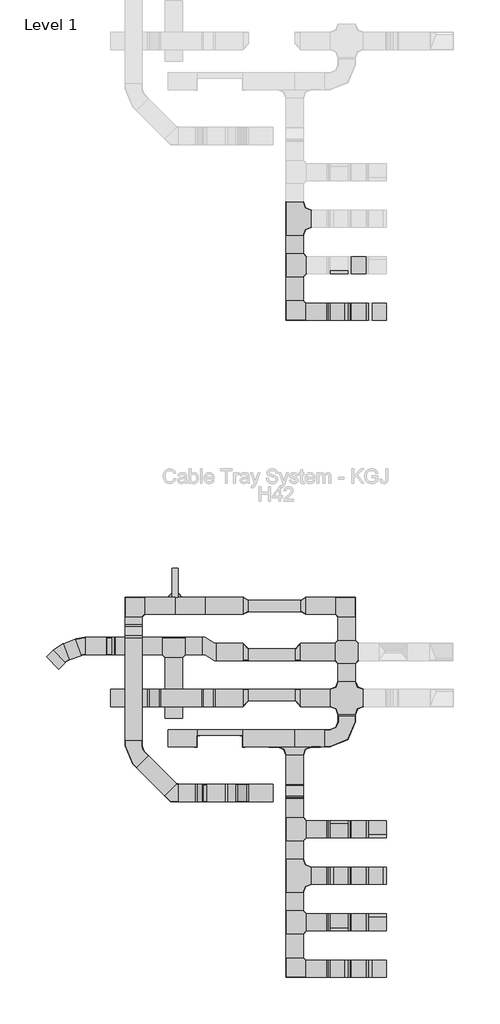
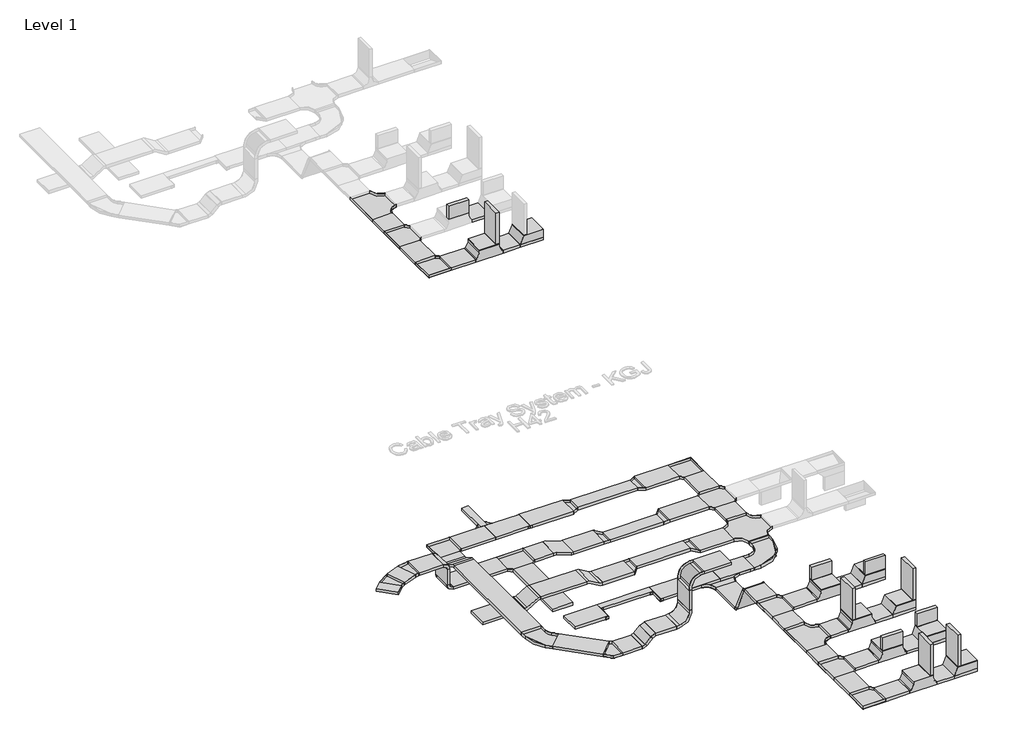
# One storey, part 1 of 106: 65 cable carrier segments, 51 cable carrier fittings.
"""IFC4 building model written with IfcOpenShell, lengths in millimetres."""

from ifc_helpers import new_model, si_unit, frame, origin, place, context, project, spatial, polyline, outline, extrude, transform, mapped, element, save
from components import cable_carrier_fitting_e5c8e40d, cable_carrier_fitting_89415aa4, cable_carrier_fitting_efa56db2, cable_carrier_fitting_91cb0ece, cable_carrier_fitting_fd90c8b5, cable_carrier_fitting_9cc64f74, cable_carrier_fitting_881c8fdb, cable_carrier_fitting_302010ec, cable_carrier_fitting_bee8c25e, cable_carrier_fitting_2b67af39, cable_carrier_fitting_af289c29, cable_carrier_fitting_3ff81d9b, cable_carrier_fitting_7d5806c9, cable_carrier_fitting_0ce080ce, cable_carrier_fitting_1724e2f5, cable_carrier_fitting_0e05e12f, cable_carrier_fitting_aa4403b1, cable_carrier_fitting_df0feb0d, cable_carrier_fitting_19ef2403, cable_carrier_fitting_0fee3a18, cable_carrier_fitting_e93d4d17, cable_carrier_fitting_f62230c1, cable_carrier_fitting_68112528, cable_carrier_fitting_3c0e6721, cable_carrier_fitting_94ef316f, cable_carrier_fitting_d4aa8912, cable_carrier_fitting_70c157f5, cable_carrier_fitting_f138ef00, cable_carrier_fitting_b296faec, cable_carrier_fitting_717dd42d, cable_carrier_fitting_55953e98, cable_carrier_fitting_c1d9b0e5, rkj200_h42_1d64d163, rkj200_h42_0f858a6a

model = new_model("IFC4")

# Units and contexts
model_context = context("Model", 3, world=origin())
ifc_project = project(units=[si_unit("LENGTHUNIT", "METRE", prefix="MILLI")], contexts=[model_context])

# Site, building, storey
site = spatial("IfcSite", under=ifc_project)
building = spatial("IfcBuilding", under=site)
storey = spatial("IfcBuildingStorey", under=building, Name="Level 1", Elevation=0.0)

# Cable carrier fittings
placement = place(None, origin())
cable_carrier_fitting_shape = cable_carrier_fitting_e5c8e40d(model_context)
element("IfcCableCarrierFitting", 1, ObjectType="BAKS_SUB_Corner connector : LRJ_H42", at=placement, inside=storey, context=model_context, shape_type="MappedRepresentation", body=[
    mapped(cable_carrier_fitting_shape, transform((-19375.1670538, 35330.8714214, -21.0), x_axis=(-1.0, 0.0, 0.0), y_axis=(0.0, -1.0, 0.0), z_axis=(0.0, 0.0, 1.0))),
])
element("IfcCableCarrierFitting", 2, ObjectType="BAKS_SUB_Corner connector : LRJ_H42", at=placement, inside=storey, context=model_context, shape_type="MappedRepresentation", body=[
    mapped(cable_carrier_fitting_shape, transform((-19275.1670538, 35330.8714214, -21.0), x_axis=(0.0, 1.0, 0.0), y_axis=(-1.0, 0.0, 0.0), z_axis=(0.0, 0.0, 1.0))),
])
cable_carrier_fitting_2_shape = cable_carrier_fitting_89415aa4(model_context)
element("IfcCableCarrierFitting", 3, ObjectType="BAKS_Horizontal bend : KKBL/KKMBL_H42", at=placement, inside=storey, context=model_context, shape_type="MappedRepresentation", body=[
    mapped(cable_carrier_fitting_2_shape, transform((-19343.6670538, 31931.3714214, 100.0), x_axis=(0.7071067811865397, -0.7071067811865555, 0.0), y_axis=(0.7071067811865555, 0.7071067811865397, 0.0), z_axis=(0.0, 0.0, 1.0))),
])
cable_carrier_fitting_3_shape = cable_carrier_fitting_efa56db2(model_context)
element("IfcCableCarrierFitting", 4, ObjectType="BAKS_Horizontal bypass : OPZNJ_H42", at=placement, inside=storey, context=model_context, shape_type="MappedRepresentation", body=[
    mapped(cable_carrier_fitting_3_shape, transform((-18722.1670538, 34380.8714214, 0.0), x_axis=(-1.0, 0.0, 0.0), y_axis=(0.0, 1.0, 0.0), z_axis=(0.0, 0.0, -1.0))),
])
cable_carrier_fitting_4_shape = cable_carrier_fitting_91cb0ece(model_context)
element("IfcCableCarrierFitting", 5, ObjectType="BAKS_Horizontal cross over : CZKL_H42", at=placement, inside=storey, context=model_context, shape_type="MappedRepresentation", body=[
    mapped(cable_carrier_fitting_4_shape, transform((-16343.1670538, 34380.8714214, 0.0), x_axis=(0.0, -1.0, 0.0), y_axis=(1.0, 0.0, 0.0), z_axis=(0.0, 0.0, 1.0))),
])
cable_carrier_fitting_5_shape = cable_carrier_fitting_fd90c8b5(model_context)
element("IfcCableCarrierFitting", 6, ObjectType="BAKS_Horizontal tee radius : TKPJ_H42", at=placement, inside=storey, context=model_context, shape_type="MappedRepresentation", body=[
    mapped(cable_carrier_fitting_5_shape, transform((-17246.1670538, 41896.5802898, 432.5277378), x_axis=(0.0, 1.0, 0.0), y_axis=(-1.0, 0.0, 0.0), z_axis=(0.0, 0.0, 1.0))),
])
element("IfcCableCarrierFitting", 7, ObjectType="BAKS_Horizontal tee radius : TKPJ_H42", at=placement, inside=storey, context=model_context, shape_type="MappedRepresentation", body=[
    mapped(cable_carrier_fitting_5_shape, transform((-17246.1670538, 30496.5802898, 432.5277378), x_axis=(0.0, 1.0, 0.0), y_axis=(-1.0, 0.0, 0.0), z_axis=(0.0, 0.0, 1.0))),
])
cable_carrier_fitting_6_shape = cable_carrier_fitting_9cc64f74(model_context)
element("IfcCableCarrierFitting", 8, ObjectType="BAKS_Horizontal tee : TKL_H42", at=placement, inside=storey, context=model_context, shape_type="MappedRepresentation", body=[
    mapped(cable_carrier_fitting_6_shape, transform((-19343.6670538, 34480.8714214, 0.0), x_axis=(1.0, 0.0, 0.0), y_axis=(0.0, 1.0, 0.0), z_axis=(0.0, 0.0, 1.0))),
])
element("IfcCableCarrierFitting", 9, ObjectType="BAKS_Horizontal tee : TKL_H42", at=placement, inside=storey, context=model_context, shape_type="MappedRepresentation", body=[
    mapped(cable_carrier_fitting_6_shape, transform((-17246.1670538, 41089.2974728, 432.5277378), x_axis=(0.0, 1.0, 0.0), y_axis=(-1.0, 0.0, 0.0), z_axis=(0.0, 0.0, 1.0))),
])
element("IfcCableCarrierFitting", 10, ObjectType="BAKS_Horizontal tee : TKL_H42", at=placement, inside=storey, context=model_context, shape_type="MappedRepresentation", body=[
    mapped(cable_carrier_fitting_6_shape, transform((-17246.1670538, 29689.2974728, 432.5277378), x_axis=(0.0, 1.0, 0.0), y_axis=(-1.0, 0.0, 0.0), z_axis=(0.0, 0.0, 1.0))),
])
element("IfcCableCarrierFitting", 11, ObjectType="BAKS_Horizontal tee : TKL_H42", at=placement, inside=storey, context=model_context, shape_type="MappedRepresentation", body=[
    mapped(cable_carrier_fitting_6_shape, transform((-17246.1670538, 31303.8631068, 432.5277378), x_axis=(0.0, 1.0, 0.0), y_axis=(-1.0, 0.0, 0.0), z_axis=(0.0, 0.0, 1.0))),
])
cable_carrier_fitting_7_shape = cable_carrier_fitting_881c8fdb(model_context)
element("IfcCableCarrierFitting", 12, ObjectType="BAKS_Universal elbow : KRUMJ_H42", at=placement, inside=storey, context=model_context, shape_type="MappedRepresentation", body=[
    mapped(cable_carrier_fitting_7_shape, transform((-16006.1670538, 30496.5802898, 432.5277378), x_axis=(1.0, 0.0, 0.0), y_axis=(0.0, 1.0, 0.0), z_axis=(0.0, 0.0, 1.0))),
])
cable_carrier_fitting_8_shape = cable_carrier_fitting_302010ec(model_context)
element("IfcCableCarrierFitting", 13, ObjectType="BAKS_Universal tee : TRUNJ_H42", at=placement, inside=storey, context=model_context, shape_type="MappedRepresentation", body=[
    mapped(cable_carrier_fitting_8_shape, transform((-16473.5199976, 30496.5802898, 432.5277378), x_axis=(-1.0, 0.0, 0.0), y_axis=(0.0, -1.0, 0.0), z_axis=(0.0, 0.0, 1.0))),
])
cable_carrier_fitting_9_shape = cable_carrier_fitting_bee8c25e(model_context)
element("IfcCableCarrierFitting", 14, ObjectType="BAKS_Vertical bend adjustable : LLL/LLJ_H42", at=placement, inside=storey, context=model_context, shape_type="MappedRepresentation", body=[
    mapped(cable_carrier_fitting_9_shape, transform((-18246.2659001, 31931.3714214, 237.4011537), x_axis=(1.0, 0.0, 0.0), y_axis=(0.0, 0.0, 1.0), z_axis=(0.0, -1.0, 0.0))),
])
element("IfcCableCarrierFitting", 15, ObjectType="BAKS_Vertical bend adjustable : LLL/LLJ_H42", at=placement, inside=storey, context=model_context, shape_type="MappedRepresentation", body=[
    mapped(cable_carrier_fitting_9_shape, transform((-18246.2659001, 31931.3714214, 977.4011537), x_axis=(0.0, 0.0, 1.0), y_axis=(1.0, 0.0, 0.0), z_axis=(0.0, 1.0, 0.0))),
])
cable_carrier_fitting_10_shape = cable_carrier_fitting_2b67af39(model_context)
element("IfcCableCarrierFitting", 16, ObjectType="BAKS_Vertical bypass : OPNNJ_H42", at=placement, inside=storey, context=model_context, shape_type="MappedRepresentation", body=[
    mapped(cable_carrier_fitting_10_shape, transform((-19686.6670538, 33580.8714214, 100.0), x_axis=(-1.0, 0.0, 0.0), y_axis=(0.0, -1.0, 0.0), z_axis=(0.0, 0.0, 1.0))),
])
cable_carrier_fitting_11_shape = cable_carrier_fitting_af289c29(model_context)
element("IfcCableCarrierFitting", 17, ObjectType="BAKS_Articulated_connector : LGJ_H42", at=placement, inside=storey, context=model_context, shape_type="MappedRepresentation", body=[
    mapped(cable_carrier_fitting_11_shape, transform((-17246.1670538, 32058.7056523, 0.0), x_axis=(0.0, -1.0, 0.0), y_axis=(0.0, 0.0, 1.0), z_axis=(-1.0, 0.0, 0.0))),
])
element("IfcCableCarrierFitting", 18, ObjectType="BAKS_Articulated_connector : LGJ_H42", at=placement, inside=storey, context=model_context, shape_type="MappedRepresentation", body=[
    mapped(cable_carrier_fitting_11_shape, transform((-17246.1670538, 31857.0146558, 432.5277378), x_axis=(0.0, -0.42261826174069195, 0.9063077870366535), y_axis=(0.0, -0.9063077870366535, -0.42261826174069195), z_axis=(1.0, 0.0, 0.0))),
])
cable_carrier_fitting_12_shape = cable_carrier_fitting_3ff81d9b(model_context)
element("IfcCableCarrierFitting", 19, ObjectType="BAKS_Universal tee : TRUNJ_H42", at=placement, inside=storey, context=model_context, shape_type="MappedRepresentation", body=[
    mapped(cable_carrier_fitting_12_shape, transform((-16473.5199976, 31303.8631068, 432.5277378), x_axis=(-1.0, 0.0, 0.0), y_axis=(0.0, -1.0, 0.0), z_axis=(0.0, 0.0, 1.0))),
])
cable_carrier_fitting_13_shape = cable_carrier_fitting_7d5806c9(model_context)
element("IfcCableCarrierFitting", 20, ObjectType="BAKS_Universal tee : TRUNJ_H42", at=placement, inside=storey, context=model_context, shape_type="MappedRepresentation", body=[
    mapped(cable_carrier_fitting_13_shape, transform((-16473.5199976, 29689.2974728, 432.5277378), x_axis=(-1.0, 0.0, 0.0), y_axis=(0.0, -1.0, 0.0), z_axis=(0.0, 0.0, 1.0))),
])
cable_carrier_fitting_14_shape = cable_carrier_fitting_0ce080ce(model_context)
element("IfcCableCarrierFitting", 21, ObjectType="BAKS_Universal tee : TRUNJ_H42", at=placement, inside=storey, context=model_context, shape_type="MappedRepresentation", body=[
    mapped(cable_carrier_fitting_14_shape, transform((-16473.5199976, 40282.0146558, 432.5277378), x_axis=(-1.0, 0.0, 0.0), y_axis=(0.0, -1.0, 0.0), z_axis=(0.0, 0.0, 1.0))),
])
element("IfcCableCarrierFitting", 22, ObjectType="BAKS_Universal tee : TRUNJ_H42", at=placement, inside=storey, context=model_context, shape_type="MappedRepresentation", body=[
    mapped(cable_carrier_fitting_14_shape, transform((-16473.5199976, 28882.0146558, 432.5277378), x_axis=(-1.0, 0.0, 0.0), y_axis=(0.0, -1.0, 0.0), z_axis=(0.0, 0.0, 1.0))),
])
cable_carrier_fitting_15_shape = cable_carrier_fitting_1724e2f5(model_context)
element("IfcCableCarrierFitting", 23, ObjectType="BAKS_Vertical bypass : OPNNJ_H42", at=placement, inside=storey, context=model_context, shape_type="MappedRepresentation", body=[
    mapped(cable_carrier_fitting_15_shape, transform((-18743.6670538, 33580.8714214, 0.0), x_axis=(-1.0, 0.0, 0.0), y_axis=(0.0, -1.0, 0.0), z_axis=(0.0, 0.0, 1.0))),
])
element("IfcCableCarrierFitting", 24, ObjectType="BAKS_Vertical bypass : OPNNJ_H42", at=placement, inside=storey, context=model_context, shape_type="MappedRepresentation", body=[
    mapped(cable_carrier_fitting_15_shape, transform((-20043.1670538, 34739.3714214, 0.0), x_axis=(0.0, -1.0, 0.0), y_axis=(1.0, 0.0, 0.0), z_axis=(0.0, 0.0, 1.0))),
])
cable_carrier_fitting_16_shape = cable_carrier_fitting_0e05e12f(model_context)
element("IfcCableCarrierFitting", 25, ObjectType="BAKS_Universal elbow : KRUMJ_H42", at=placement, inside=storey, context=model_context, shape_type="MappedRepresentation", body=[
    mapped(cable_carrier_fitting_16_shape, transform((-16006.1670538, 31303.8631068, 432.5277378), x_axis=(1.0, 0.0, 0.0), y_axis=(0.0, 1.0, 0.0), z_axis=(0.0, 0.0, 1.0))),
])
cable_carrier_fitting_17_shape = cable_carrier_fitting_aa4403b1(model_context)
element("IfcCableCarrierFitting", 26, ObjectType="BAKS_Universal elbow : KRUMJ_H42", at=placement, inside=storey, context=model_context, shape_type="MappedRepresentation", body=[
    mapped(cable_carrier_fitting_17_shape, transform((-16006.1670538, 29689.2974728, 432.5277378), x_axis=(1.0, 0.0, 0.0), y_axis=(0.0, 1.0, 0.0), z_axis=(0.0, 0.0, 1.0))),
])
cable_carrier_fitting_18_shape = cable_carrier_fitting_df0feb0d(model_context)
element("IfcCableCarrierFitting", 27, ObjectType="BAKS_Universal elbow : KRUMJ_H42", at=placement, inside=storey, context=model_context, shape_type="MappedRepresentation", body=[
    mapped(cable_carrier_fitting_18_shape, transform((-16006.1670538, 40282.0146558, 432.5277378), x_axis=(1.0, 0.0, 0.0), y_axis=(0.0, 1.0, 0.0), z_axis=(0.0, 0.0, 1.0))),
])
element("IfcCableCarrierFitting", 28, ObjectType="BAKS_Universal elbow : KRUMJ_H42", at=placement, inside=storey, context=model_context, shape_type="MappedRepresentation", body=[
    mapped(cable_carrier_fitting_18_shape, transform((-16006.1670538, 28882.0146558, 432.5277378), x_axis=(1.0, 0.0, 0.0), y_axis=(0.0, 1.0, 0.0), z_axis=(0.0, 0.0, 1.0))),
])
cable_carrier_fitting_19_shape = cable_carrier_fitting_19ef2403(model_context)
element("IfcCableCarrierFitting", 29, ObjectType="BAKS_Adjustable bend : KKRPJ_H42", at=placement, inside=storey, context=model_context, shape_type="MappedRepresentation", body=[
    mapped(cable_carrier_fitting_19_shape, transform((-21281.9563973, 34357.7441698, 400.0), x_axis=(-0.9396926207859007, -0.34202014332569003, 0.0), y_axis=(0.34202014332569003, -0.9396926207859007, 0.0), z_axis=(0.0, 0.0, 1.0))),
])
cable_carrier_fitting_20_shape = cable_carrier_fitting_0fee3a18(model_context)
element("IfcCableCarrierFitting", 30, ObjectType="BAKS_Adjustable bend : KKRPJ_H42", at=placement, inside=storey, context=model_context, shape_type="MappedRepresentation", body=[
    mapped(cable_carrier_fitting_20_shape, transform((-20943.6670538, 34480.8714214, 400.0), x_axis=(-1.0, 0.0, 0.0), y_axis=(0.0, -1.0, 0.0), z_axis=(0.0, 0.0, 1.0))),
])
cable_carrier_fitting_21_shape = cable_carrier_fitting_e93d4d17(model_context)
element("IfcCableCarrierFitting", 31, ObjectType="BAKS_Plate connector : LPMU_H42", at=placement, inside=storey, context=model_context, shape_type="MappedRepresentation", body=[
    mapped(cable_carrier_fitting_21_shape, transform((-18803.1670538, 35180.8714214, 0.0), x_axis=(1.0, 0.0, 0.0), y_axis=(0.0, 1.0, 0.0), z_axis=(0.0, 0.0, 1.0))),
])
cable_carrier_fitting_22_shape = cable_carrier_fitting_f62230c1(model_context)
element("IfcCableCarrierFitting", 32, ObjectType="BAKS_Vertical bend LU : LLJ_H42", at=placement, inside=storey, context=model_context, shape_type="MappedRepresentation", body=[
    mapped(cable_carrier_fitting_22_shape, transform((-20443.6670538, 34480.8714214, 0.0), x_axis=(-1.0, 0.0, 0.0), y_axis=(0.0, 0.0, 1.0), z_axis=(0.0, 1.0, 0.0))),
])
element("IfcCableCarrierFitting", 33, ObjectType="BAKS_Vertical bend LU : LLJ_H42", at=placement, inside=storey, context=model_context, shape_type="MappedRepresentation", body=[
    mapped(cable_carrier_fitting_22_shape, transform((-20443.6670538, 34480.8714214, 400.0), x_axis=(0.0, 0.0, 1.0), y_axis=(-1.0, 0.0, 0.0), z_axis=(0.0, -1.0, 0.0))),
])
cable_carrier_fitting_23_shape = cable_carrier_fitting_68112528(model_context)
element("IfcCableCarrierFitting", 34, ObjectType="BAKS_Vertical bend LU : LLJ_H42", at=placement, inside=storey, context=model_context, shape_type="MappedRepresentation", body=[
    mapped(cable_carrier_fitting_23_shape, transform((-18943.6670538, 31931.3714214, 100.0), x_axis=(1.0, 0.0, 0.0), y_axis=(0.0, 0.0, 1.0), z_axis=(0.0, -1.0, 0.0))),
])
element("IfcCableCarrierFitting", 35, ObjectType="BAKS_Vertical bend LU : LLJ_H42", at=placement, inside=storey, context=model_context, shape_type="MappedRepresentation", body=[
    mapped(cable_carrier_fitting_23_shape, transform((-18806.2659001, 31931.3714214, 237.4011537), x_axis=(0.7071067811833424, 0.0, 0.7071067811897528), y_axis=(0.7071067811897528, 0.0, -0.7071067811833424), z_axis=(0.0, 1.0, 0.0))),
])
cable_carrier_fitting_24_shape = cable_carrier_fitting_3c0e6721(model_context)
element("IfcCableCarrierFitting", 36, ObjectType="BAKS_Horizontal cross over radius : CZKPJ_H42", at=placement, inside=storey, context=model_context, shape_type="MappedRepresentation", body=[
    mapped(cable_carrier_fitting_24_shape, transform((-16343.1670538, 33580.8714214, 0.0), x_axis=(0.0, -1.0, 0.0), y_axis=(1.0, 0.0, 0.0), z_axis=(0.0, 0.0, 1.0))),
])
cable_carrier_fitting_25_shape = cable_carrier_fitting_94ef316f(model_context)
element("IfcCableCarrierFitting", 37, ObjectType="BAKS_Reducer : RK(S/L/P)L_H42", at=placement, inside=storey, context=model_context, shape_type="MappedRepresentation", body=[
    mapped(cable_carrier_fitting_25_shape, transform((-18143.1670538, 35180.8714214, 0.0), x_axis=(1.0, 0.0, 0.0), y_axis=(0.0, 1.0, 0.0), z_axis=(0.0, 0.0, 1.0))),
])
cable_carrier_fitting_26_shape = cable_carrier_fitting_d4aa8912(model_context)
element("IfcCableCarrierFitting", 38, ObjectType="BAKS_Reducer : RK(S/L/P)L_H42", at=placement, inside=storey, context=model_context, shape_type="MappedRepresentation", body=[
    mapped(cable_carrier_fitting_26_shape, transform((-17143.1670538, 35180.8714214, 0.0), x_axis=(1.0, 0.0, 0.0), y_axis=(0.0, 1.0, 0.0), z_axis=(0.0, 0.0, 1.0))),
])
cable_carrier_fitting_27_shape = cable_carrier_fitting_70c157f5(model_context)
element("IfcCableCarrierFitting", 39, ObjectType="BAKS_Reducer : RK(S/L/P)L_H42", at=placement, inside=storey, context=model_context, shape_type="MappedRepresentation", body=[
    mapped(cable_carrier_fitting_27_shape, transform((-18143.1670538, 34380.8714214, 0.0), x_axis=(1.0, 0.0, 0.0), y_axis=(0.0, 1.0, 0.0), z_axis=(0.0, 0.0, 1.0))),
])
element("IfcCableCarrierFitting", 40, ObjectType="BAKS_Reducer : RK(S/L/P)L_H42", at=placement, inside=storey, context=model_context, shape_type="MappedRepresentation", body=[
    mapped(cable_carrier_fitting_27_shape, transform((-17143.1670538, 33580.8714214, 0.0), x_axis=(-1.0, 0.0, 0.0), y_axis=(0.0, -1.0, 0.0), z_axis=(0.0, 0.0, 1.0))),
])
cable_carrier_fitting_28_shape = cable_carrier_fitting_f138ef00(model_context)
element("IfcCableCarrierFitting", 41, ObjectType="BAKS_Reducer : RK(S/L/P)L_H42", at=placement, inside=storey, context=model_context, shape_type="MappedRepresentation", body=[
    mapped(cable_carrier_fitting_28_shape, transform((-17143.1670538, 34380.8714214, 0.0), x_axis=(-1.0, 0.0, 0.0), y_axis=(0.0, -1.0, 0.0), z_axis=(0.0, 0.0, 1.0))),
])
element("IfcCableCarrierFitting", 42, ObjectType="BAKS_Reducer : RK(S/L/P)L_H42", at=placement, inside=storey, context=model_context, shape_type="MappedRepresentation", body=[
    mapped(cable_carrier_fitting_28_shape, transform((-18143.1670538, 33580.8714214, 0.0), x_axis=(1.0, 0.0, 0.0), y_axis=(0.0, 1.0, 0.0), z_axis=(0.0, 0.0, 1.0))),
])
cable_carrier_fitting_29_shape = cable_carrier_fitting_b296faec(model_context)
element("IfcCableCarrierFitting", 43, ObjectType="BAKS_Horizontal addon tee : TKDJ_H42", at=placement, inside=storey, context=model_context, shape_type="MappedRepresentation", body=[
    mapped(cable_carrier_fitting_29_shape, transform((-17246.1670538, 32880.8714214, 0.0), x_axis=(1.0, 0.0, 0.0), y_axis=(0.0, 1.0, 0.0), z_axis=(0.0, 0.0, 1.0))),
])
cable_carrier_fitting_30_shape = cable_carrier_fitting_717dd42d(model_context)
element("IfcCableCarrierFitting", 44, ObjectType="BAKS_Horizontal bend : KKBL/KKMBL_H42", at=placement, inside=storey, context=model_context, shape_type="MappedRepresentation", body=[
    mapped(cable_carrier_fitting_30_shape, transform((-16343.1670538, 35180.8714214, 0.0), x_axis=(0.0, 1.0, 0.0), y_axis=(-1.0, 0.0, 0.0), z_axis=(0.0, 0.0, 1.0))),
])
element("IfcCableCarrierFitting", 45, ObjectType="BAKS_Horizontal bend : KKBL/KKMBL_H42", at=placement, inside=storey, context=model_context, shape_type="MappedRepresentation", body=[
    mapped(cable_carrier_fitting_30_shape, transform((-20043.1670538, 35180.8714214, 0.0), x_axis=(-1.0, 0.0, 0.0), y_axis=(0.0, -1.0, 0.0), z_axis=(0.0, 0.0, 1.0))),
])
element("IfcCableCarrierFitting", 46, ObjectType="BAKS_Horizontal bend : KKBL/KKMBL_H42", at=placement, inside=storey, context=model_context, shape_type="MappedRepresentation", body=[
    mapped(cable_carrier_fitting_30_shape, transform((-17246.1670538, 40282.0146558, 432.5277378), x_axis=(0.0, -1.0, 0.0), y_axis=(1.0, 0.0, 0.0), z_axis=(0.0, 0.0, 1.0))),
])
element("IfcCableCarrierFitting", 47, ObjectType="BAKS_Horizontal bend : KKBL/KKMBL_H42", at=placement, inside=storey, context=model_context, shape_type="MappedRepresentation", body=[
    mapped(cable_carrier_fitting_30_shape, transform((-17246.1670538, 28882.0146558, 432.5277378), x_axis=(0.0, -1.0, 0.0), y_axis=(1.0, 0.0, 0.0), z_axis=(0.0, 0.0, 1.0))),
])
cable_carrier_fitting_31_shape = cable_carrier_fitting_55953e98(model_context)
element("IfcCableCarrierFitting", 48, ObjectType="BAKS_Horizontal bend radius : KKPJ/KKMPJ_H42", at=placement, inside=storey, context=model_context, shape_type="MappedRepresentation", body=[
    mapped(cable_carrier_fitting_31_shape, transform((-20043.1670538, 32630.8714214, 100.0), x_axis=(0.0, -1.0, 0.0), y_axis=(1.0, 0.0, 0.0), z_axis=(0.0, 0.0, 1.0))),
])
cable_carrier_fitting_32_shape = cable_carrier_fitting_c1d9b0e5(model_context)
element("IfcCableCarrierFitting", 49, ObjectType="BAKS_Horizontal bend radius : KKPJ/KKMPJ_H42", at=placement, inside=storey, context=model_context, shape_type="MappedRepresentation", body=[
    mapped(cable_carrier_fitting_32_shape, transform((-16343.1670538, 32880.8714214, 0.0), x_axis=(1.0, 0.0, 0.0), y_axis=(0.0, 1.0, 0.0), z_axis=(0.0, 0.0, 1.0))),
])
rkj200_h42_shape = rkj200_h42_1d64d163(model_context)
element("IfcCableCarrierFitting", 50, ObjectType="BAKS_SUB_Reduction angular : RKJ200_H42", at=placement, inside=storey, context=model_context, shape_type="MappedRepresentation", body=[
    mapped(rkj200_h42_shape, transform((-18943.1670538, 32730.8714214, -21.0), x_axis=(1.0, 0.0, 0.0), y_axis=(0.0, 1.0, 0.0), z_axis=(0.0, 0.0, 1.0))),
])
rkj200_h42_2_shape = rkj200_h42_0f858a6a(model_context)
element("IfcCableCarrierFitting", 51, ObjectType="BAKS_SUB_Reduction angular : RKJ200_H42", at=placement, inside=storey, context=model_context, shape_type="MappedRepresentation", body=[
    mapped(rkj200_h42_2_shape, transform((-18153.1670538, 32730.8714214, -21.0), x_axis=(-1.0, 0.0, 0.0), y_axis=(0.0, -1.0, 0.0), z_axis=(0.0, 0.0, 1.0))),
])

# Cable carrier segments
element("IfcCableCarrierSegment", 52, ObjectType="BAKS - Cable tray H42 (KGJ)", at=placement, inside=storey, context=model_context, shape_type="SweptSolid", body=[
    extrude(outline(polyline([(-18802.1670538, 35030.8714214), (-18802.1670538, 35330.8714214), (-18143.1670538, 35330.8714214), (-18143.1670538, 35030.8714214), (-18802.1670538, 35030.8714214)])), frame((0.0, 0.0, -21.0), z_axis=(0.0, 0.0, 1.0), x_axis=(1.0, 0.0, 0.0)), (0.0, 0.0, 1.0), 42.0),
])
element("IfcCableCarrierSegment", 53, ObjectType="BAKS - Cable tray H42 (KGJ)", at=placement, inside=storey, context=model_context, shape_type="SweptSolid", body=[
    extrude(outline(polyline([(-18048.1670538, 35080.8714214), (-18048.1670538, 35280.8714214), (-17143.1670538, 35280.8714214), (-17143.1670538, 35080.8714214), (-18048.1670538, 35080.8714214)])), frame((0.0, 0.0, -21.0), z_axis=(0.0, 0.0, 1.0), x_axis=(1.0, 0.0, 0.0)), (0.0, 0.0, 1.0), 42.0),
])
element("IfcCableCarrierSegment", 54, ObjectType="BAKS - Cable tray H42 (KGJ)", at=placement, inside=storey, context=model_context, shape_type="SweptSolid", body=[
    extrude(outline(polyline([(-17048.1670538, 35030.8714214), (-17048.1670538, 35330.8714214), (-16539.1670538, 35330.8714214), (-16539.1670538, 35030.8714214), (-17048.1670538, 35030.8714214)])), frame((0.0, 0.0, -21.0), z_axis=(0.0, 0.0, 1.0), x_axis=(1.0, 0.0, 0.0)), (0.0, 0.0, 1.0), 42.0),
])
element("IfcCableCarrierSegment", 55, ObjectType="BAKS - Cable tray H42 (KGJ)", at=placement, inside=storey, context=model_context, shape_type="SweptSolid", body=[
    extrude(outline(polyline([(-16493.1670538, 34984.8714214), (-16193.1670538, 34984.8714214), (-16193.1670538, 34585.8714214), (-16493.1670538, 34585.8714214), (-16493.1670538, 34984.8714214)])), frame((0.0, 0.0, -21.0), z_axis=(0.0, 0.0, 1.0), x_axis=(1.0, 0.0, 0.0)), (0.0, 0.0, 1.0), 42.0),
])
element("IfcCableCarrierSegment", 56, ObjectType="BAKS - Cable tray H42 (KGJ)", at=placement, inside=storey, context=model_context, shape_type="SweptSolid", body=[
    extrude(outline(polyline([(-16493.1670538, 34175.8714214), (-16193.1670538, 34175.8714214), (-16193.1670538, 33871.8714214), (-16493.1670538, 33871.8714214), (-16493.1670538, 34175.8714214)])), frame((0.0, 0.0, -21.0), z_axis=(0.0, 0.0, 1.0), x_axis=(1.0, 0.0, 0.0)), (0.0, 0.0, 1.0), 42.0),
])
element("IfcCableCarrierSegment", 57, ObjectType="BAKS - Cable tray H42 (KGJ)", at=placement, inside=storey, context=model_context, shape_type="SweptSolid", body=[
    extrude(outline(polyline([(-17238.1670538, 34430.8714214), (-17238.1670538, 34230.8714214), (-18048.1670538, 34230.8714214), (-18048.1670538, 34430.8714214), (-17238.1670538, 34430.8714214)])), frame((0.0, 0.0, -21.0), z_axis=(0.0, 0.0, 1.0), x_axis=(1.0, 0.0, 0.0)), (0.0, 0.0, 1.0), 42.0),
])
element("IfcCableCarrierSegment", 58, ObjectType="BAKS - Cable tray H42 (KGJ)", at=placement, inside=storey, context=model_context, shape_type="SweptSolid", body=[
    extrude(outline(polyline([(-18600.6670538, 34230.8714214), (-18600.6670538, 34530.8714214), (-18143.1670538, 34530.8714214), (-18143.1670538, 34230.8714214), (-18600.6670538, 34230.8714214)])), frame((0.0, 0.0, -21.0), z_axis=(0.0, 0.0, 1.0), x_axis=(1.0, 0.0, 0.0)), (0.0, 0.0, 1.0), 42.0),
])
element("IfcCableCarrierSegment", 59, ObjectType="BAKS - Cable tray H42 (KGJ)", at=placement, inside=storey, context=model_context, shape_type="SweptSolid", body=[
    extrude(outline(polyline([(-16548.1670538, 34530.8714214), (-16548.1670538, 34230.8714214), (-17143.1670538, 34230.8714214), (-17143.1670538, 34530.8714214), (-16548.1670538, 34530.8714214)])), frame((0.0, 0.0, -21.0), z_axis=(0.0, 0.0, 1.0), x_axis=(1.0, 0.0, 0.0)), (0.0, 0.0, 1.0), 42.0),
])
element("IfcCableCarrierSegment", 60, ObjectType="BAKS - Cable tray H42 (KGJ)", at=placement, inside=storey, context=model_context, shape_type="SweptSolid", body=[
    extrude(outline(polyline([(-17238.1670538, 33730.8714214), (-17238.1670538, 33530.8714214), (-18048.1670538, 33530.8714214), (-18048.1670538, 33730.8714214), (-17238.1670538, 33730.8714214)])), frame((0.0, 0.0, -21.0), z_axis=(0.0, 0.0, 1.0), x_axis=(1.0, 0.0, 0.0)), (0.0, 0.0, 1.0), 42.0),
])
element("IfcCableCarrierSegment", 61, ObjectType="BAKS - Cable tray H42 (KGJ)", at=placement, inside=storey, context=model_context, shape_type="SweptSolid", body=[
    extrude(outline(polyline([(-18622.1670538, 33430.8714214), (-18622.1670538, 33730.8714214), (-18143.1670538, 33730.8714214), (-18143.1670538, 33430.8714214), (-18622.1670538, 33430.8714214)])), frame((0.0, 0.0, -21.0), z_axis=(0.0, 0.0, 1.0), x_axis=(1.0, 0.0, 0.0)), (0.0, 0.0, 1.0), 42.0),
])
element("IfcCableCarrierSegment", 62, ObjectType="BAKS - Cable tray H42 (KGJ)", at=placement, inside=storey, context=model_context, shape_type="SweptSolid", body=[
    extrude(outline(polyline([(-16634.1670538, 33730.8714214), (-16634.1670538, 33430.8714214), (-17143.1670538, 33430.8714214), (-17143.1670538, 33730.8714214), (-16634.1670538, 33730.8714214)])), frame((0.0, 0.0, -21.0), z_axis=(0.0, 0.0, 1.0), x_axis=(1.0, 0.0, 0.0)), (0.0, 0.0, 1.0), 42.0),
])
element("IfcCableCarrierSegment", 63, ObjectType="BAKS - Cable tray H42 (KGJ)", at=placement, inside=storey, context=model_context, shape_type="SweptSolid", body=[
    extrude(outline(polyline([(-19548.6670538, 34630.8714214), (-19548.6670538, 34330.8714214), (-20367.6670538, 34330.8714214), (-20367.6670538, 34630.8714214), (-19548.6670538, 34630.8714214)])), frame((0.0, 0.0, -21.0), z_axis=(0.0, 0.0, 1.0), x_axis=(1.0, 0.0, 0.0)), (0.0, 0.0, 1.0), 42.0),
])
element("IfcCableCarrierSegment", 64, ObjectType="BAKS - Cable tray H42 (KGJ)", at=placement, inside=storey, context=model_context, shape_type="SweptSolid", body=[
    extrude(outline(polyline([(-18865.1670538, 33730.8714214), (-18865.1670538, 33430.8714214), (-19565.1670538, 33430.8714214), (-19565.1670538, 33730.8714214), (-18865.1670538, 33730.8714214)])), frame((0.0, 0.0, 79.0), z_axis=(0.0, 0.0, 1.0), x_axis=(1.0, 0.0, 0.0)), (0.0, 0.0, 1.0), 42.0),
])
element("IfcCableCarrierSegment", 65, ObjectType="BAKS - Cable tray H42 (KGJ)", at=placement, inside=storey, context=model_context, shape_type="SweptSolid", body=[
    extrude(outline(polyline([(-20193.1670538, 34984.8714214), (-19893.1670538, 34984.8714214), (-19893.1670538, 34860.8714214), (-20193.1670538, 34860.8714214), (-20193.1670538, 34984.8714214)])), frame((0.0, 0.0, -21.0), z_axis=(0.0, 0.0, 1.0), x_axis=(1.0, 0.0, 0.0)), (0.0, 0.0, 1.0), 42.0),
])
element("IfcCableCarrierSegment", 66, ObjectType="BAKS - Cable tray H42 (KGJ)", at=placement, inside=storey, context=model_context, shape_type="SweptSolid", body=[
    extrude(outline(polyline([(-19493.6670538, 34275.8714214), (-19193.6670538, 34275.8714214), (-19193.6670538, 33230.8714214), (-19493.6670538, 33230.8714214), (-19493.6670538, 34275.8714214)])), frame((0.0, 0.0, -21.0), z_axis=(0.0, 0.0, 1.0), x_axis=(1.0, 0.0, 0.0)), (0.0, 0.0, 1.0), 42.0),
])
element("IfcCableCarrierSegment", 67, ObjectType="BAKS - Cable tray H42 (KGJ)", at=placement, inside=storey, context=model_context, shape_type="SweptSolid", body=[
    extrude(outline(polyline([(-18843.6670538, 34630.8714214), (-18843.6670538, 34330.8714214), (-19138.6670538, 34330.8714214), (-19138.6670538, 34630.8714214), (-18843.6670538, 34630.8714214)])), frame((0.0, 0.0, -21.0), z_axis=(0.0, 0.0, 1.0), x_axis=(1.0, 0.0, 0.0)), (0.0, 0.0, 1.0), 42.0),
])
element("IfcCableCarrierSegment", 68, ObjectType="BAKS - Cable tray H42 (KGJ)", at=placement, inside=storey, context=model_context, shape_type="SweptSolid", body=[
    extrude(outline(polyline([(-19808.1670538, 33730.8714214), (-19808.1670538, 33430.8714214), (-20443.6670538, 33430.8714214), (-20443.6670538, 33730.8714214), (-19808.1670538, 33730.8714214)])), frame((0.0, 0.0, -21.0), z_axis=(0.0, 0.0, 1.0), x_axis=(1.0, 0.0, 0.0)), (0.0, 0.0, 1.0), 42.0),
])
element("IfcCableCarrierSegment", 69, ObjectType="BAKS - Cable tray H42 (KGJ)", at=placement, inside=storey, context=model_context, shape_type="SweptSolid", body=[
    extrude(outline(polyline([(-20877.5322294, 34330.8714214), (-20877.5322294, 34630.8714214), (-20519.6670538, 34630.8714214), (-20519.6670538, 34330.8714214), (-20877.5322294, 34330.8714214)])), frame((0.0, 0.0, 379.0), z_axis=(0.0, 0.0, 1.0), x_axis=(1.0, 0.0, 0.0)), (0.0, 0.0, 1.0), 42.0),
])
element("IfcCableCarrierSegment", 70, ObjectType="BAKS - Cable tray H42 (KGJ)", at=placement, inside=storey, context=model_context, shape_type="SweptSolid", body=[
    extrude(outline(polyline([(-20464.6670538, 34630.8714214), (-20422.6670538, 34630.8714214), (-20422.6670538, 34330.8714214), (-20464.6670538, 34330.8714214), (-20464.6670538, 34630.8714214)])), frame((0.0, 0.0, 76.0), z_axis=(0.0, 0.0, 1.0), x_axis=(1.0, 0.0, 0.0)), (0.0, 0.0, 1.0), 248.0),
])
element("IfcCableCarrierSegment", 71, ObjectType="BAKS - Cable tray H42 (KGJ)", at=placement, inside=storey, context=model_context, shape_type="SweptSolid", body=[
    extrude(outline(polyline([(-19893.1670538, 32850.9933545), (-20193.1670538, 32850.9933545), (-20193.1670538, 34617.8714214), (-19893.1670538, 34617.8714214), (-19893.1670538, 32850.9933545)])), frame((0.0, 0.0, 79.0), z_axis=(0.0, 0.0, 1.0), x_axis=(1.0, 0.0, 0.0)), (0.0, 0.0, 1.0), 42.0),
])
element("IfcCableCarrierSegment", 72, ObjectType="BAKS - Cable tray H42 (KGJ)", at=placement, inside=storey, context=model_context, shape_type="SweptSolid", body=[
    extrude(outline(polyline([(-19993.5833594, 32369.1556926), (-19781.451325, 32581.287727), (-19295.422321, 32095.258723), (-19507.5543554, 31883.1266887), (-19993.5833594, 32369.1556926)])), frame((0.0, 0.0, 79.0), z_axis=(0.0, 0.0, 1.0), x_axis=(1.0, 0.0, 0.0)), (0.0, 0.0, 1.0), 42.0),
])
element("IfcCableCarrierSegment", 73, ObjectType="BAKS - Cable tray H42 (KGJ)", at=placement, inside=storey, context=model_context, shape_type="SweptSolid", body=[
    extrude(outline(polyline([(-19261.8954091, 31781.3714214), (-19261.8954091, 32081.3714214), (-18978.0762167, 32081.3714214), (-18978.0762167, 31781.3714214), (-19261.8954091, 31781.3714214)])), frame((0.0, 0.0, 79.0), z_axis=(0.0, 0.0, 1.0), x_axis=(1.0, 0.0, 0.0)), (0.0, 0.0, 1.0), 42.0),
])
element("IfcCableCarrierSegment", 74, ObjectType="BAKS - Cable tray H42 (KGJ)", at=placement, inside=storey, context=model_context, shape_type="SweptSolid", body=[
    extrude(outline(polyline([(21.0, 1.4628667), (-21.0, 1.4628667), (-21.0, 301.4628667), (21.0, 301.4628667), (21.0, 1.4628667)])), frame((-18919.3361013, 31779.9085547, 124.3309524), z_axis=(0.7071067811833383, 0.0, 0.7071067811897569), x_axis=(0.7071067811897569, 0.0, -0.7071067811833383)), (0.0, 0.0, 1.0), 125.4962492),
])
element("IfcCableCarrierSegment", 75, ObjectType="BAKS - Cable tray H42 (KGJ)", at=placement, inside=storey, context=model_context, shape_type="SweptSolid", body=[
    extrude(outline(polyline([(-18771.8567371, 31781.3714214), (-18771.8567371, 32081.3714214), (-18457.2659001, 32081.3714214), (-18457.2659001, 31781.3714214), (-18771.8567371, 31781.3714214)])), frame((0.0, 0.0, 216.4011537), z_axis=(0.0, 0.0, 1.0), x_axis=(1.0, 0.0, 0.0)), (0.0, 0.0, 1.0), 42.0),
])
element("IfcCableCarrierSegment", 76, ObjectType="BAKS - Cable tray H42 (KGJ)", at=placement, inside=storey, context=model_context, shape_type="SweptSolid", body=[
    extrude(outline(polyline([(-18225.2659001, 31781.3714214), (-18267.2659001, 31781.3714214), (-18267.2659001, 32081.3714214), (-18225.2659001, 32081.3714214), (-18225.2659001, 31781.3714214)])), frame((0.0, 0.0, 448.4011537), z_axis=(0.0, 0.0, 1.0), x_axis=(1.0, 0.0, 0.0)), (0.0, 0.0, 1.0), 318.0),
])
element("IfcCableCarrierSegment", 77, ObjectType="BAKS - Cable tray H42 (KGJ)", at=placement, inside=storey, context=model_context, shape_type="SweptSolid", body=[
    extrude(outline(polyline([(-18035.2659001, 31781.3714214), (-18035.2659001, 32081.3714214), (-17626.2659001, 32081.3714214), (-17626.2659001, 31781.3714214), (-18035.2659001, 31781.3714214)])), frame((0.0, 0.0, 956.4011537), z_axis=(0.0, 0.0, 1.0), x_axis=(1.0, 0.0, 0.0)), (0.0, 0.0, 1.0), 42.0),
])
element("IfcCableCarrierSegment", 78, ObjectType="BAKS - Cable tray H42 (KGJ)", at=placement, inside=storey, context=model_context, shape_type="SweptSolid", body=[
    extrude(outline(polyline([(-17246.7091451, 33030.8714214), (-17246.7091451, 32730.8714214), (-18152.1670538, 32730.8714214), (-18152.1670538, 33030.8714214), (-17246.7091451, 33030.8714214)])), frame((0.0, 0.0, -21.0), z_axis=(0.0, 0.0, 1.0), x_axis=(1.0, 0.0, 0.0)), (0.0, 0.0, 1.0), 42.0),
])
element("IfcCableCarrierSegment", 79, ObjectType="BAKS - Cable tray H42 (KGJ)", at=placement, inside=storey, context=model_context, shape_type="SweptSolid", body=[
    extrude(outline(polyline([(-16193.1670538, 33270.8714214), (-16493.1670538, 33270.8714214), (-16493.1670538, 33289.8714214), (-16193.1670538, 33289.8714214), (-16193.1670538, 33270.8714214)])), frame((0.0, 0.0, -21.0), z_axis=(0.0, 0.0, 1.0), x_axis=(1.0, 0.0, 0.0)), (0.0, 0.0, 1.0), 42.0),
])
element("IfcCableCarrierSegment", 80, ObjectType="BAKS - Cable tray H42 (KGJ)", at=placement, inside=storey, context=model_context, shape_type="SweptSolid", body=[
    extrude(outline(polyline([(-19443.1670538, 32730.8714214), (-19443.1670538, 33030.8714214), (-18943.1670538, 33030.8714214), (-18943.1670538, 32730.8714214), (-19443.1670538, 32730.8714214)])), frame((0.0, 0.0, -21.0), z_axis=(0.0, 0.0, 1.0), x_axis=(1.0, 0.0, 0.0)), (0.0, 0.0, 1.0), 42.0),
])
element("IfcCableCarrierSegment", 81, ObjectType="BAKS - Cable tray H42 (KGJ)", at=placement, inside=storey, context=model_context, shape_type="SweptSolid", body=[
    extrude(outline(polyline([(-16733.1670538, 33030.8714214), (-16733.1670538, 32730.8714214), (-17245.6249624, 32730.8714214), (-17245.6249624, 33030.8714214), (-16733.1670538, 33030.8714214)])), frame((0.0, 0.0, -21.0), z_axis=(0.0, 0.0, 1.0), x_axis=(1.0, 0.0, 0.0)), (0.0, 0.0, 1.0), 42.0),
])
element("IfcCableCarrierSegment", 82, ObjectType="BAKS - Cable tray H42 (KGJ)", at=placement, inside=storey, context=model_context, shape_type="SweptSolid", body=[
    extrude(outline(polyline([(-17396.1670538, 32584.8714214), (-17096.1670538, 32584.8714214), (-17096.1670538, 32085.269479), (-17396.1670538, 32085.269479), (-17396.1670538, 32584.8714214)])), frame((0.0, 0.0, -21.0), z_axis=(0.0, 0.0, 1.0), x_axis=(1.0, 0.0, 0.0)), (0.0, 0.0, 1.0), 42.0),
])
element("IfcCableCarrierSegment", 83, ObjectType="BAKS - Cable tray H42 (KGJ)", at=placement, inside=storey, context=model_context, shape_type="SweptSolid", body=[
    extrude(outline(polyline([(-150.0, 130.4628667), (-150.0, 172.4628668), (150.0, 172.4628668), (150.0, 130.4628667), (-150.0, 130.4628667)])), frame((-17246.1670538, 31910.2073184, -39.9359704), z_axis=(0.0, -0.42261826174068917, 0.9063077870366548), x_axis=(1.0, 0.0, 0.0)), (0.0, 0.0, 1.0), 424.1139016),
])
element("IfcCableCarrierSegment", 84, ObjectType="BAKS - Cable tray H42 (KGJ)", at=placement, inside=storey, context=model_context, shape_type="SweptSolid", body=[
    extrude(outline(polyline([(-21057.1164817, 34599.2058724), (-20954.5104387, 34317.2980862), (-21156.1437833, 34243.9095505), (-21258.7498263, 34525.8173368), (-21057.1164817, 34599.2058724)])), frame((0.0, 0.0, 379.0), z_axis=(0.0, 0.0, 1.0), x_axis=(1.0, 0.0, 0.0)), (0.0, 0.0, 1.0), 42.0),
])
element("IfcCableCarrierSegment", 85, ObjectType="BAKS - Cable tray H42 (KGJ)", at=placement, inside=storey, context=model_context, shape_type="SweptSolid", body=[
    extrude(outline(polyline([(-21444.0899379, 34407.7426635), (-21231.9579036, 34195.6106291), (-21344.3432656, 34083.2252671), (-21556.4753, 34295.3573015), (-21444.0899379, 34407.7426635)])), frame((0.0, 0.0, 379.0), z_axis=(0.0, 0.0, 1.0), x_axis=(1.0, 0.0, 0.0)), (0.0, 0.0, 1.0), 42.0),
])
element("IfcCableCarrierSegment", 86, ObjectType="BAKS - Cable tray H42 (KGJ)", at=placement, inside=storey, context=model_context, shape_type="SweptSolid", body=[
    extrude(outline(polyline([(-19325.6670538, 35330.8714214), (-19325.6670538, 35030.8714214), (-19847.1670538, 35030.8714214), (-19847.1670538, 35330.8714214), (-19325.6670538, 35330.8714214)])), frame((0.0, 0.0, -21.0), z_axis=(0.0, 0.0, 1.0), x_axis=(1.0, 0.0, 0.0)), (0.0, 0.0, 1.0), 42.0),
])
element("IfcCableCarrierSegment", 87, ObjectType="BAKS - Cable tray H42 (KGJ)", at=placement, inside=storey, context=model_context, shape_type="SweptSolid", body=[
    extrude(outline(polyline([(-19275.1670538, 35330.8714214), (-19375.1670538, 35330.8714214), (-19375.1670538, 35830.8714214), (-19275.1670538, 35830.8714214), (-19275.1670538, 35330.8714214)])), frame((0.0, 0.0, -21.0), z_axis=(0.0, 0.0, 1.0), x_axis=(1.0, 0.0, 0.0)), (0.0, 0.0, 1.0), 42.0),
])
element("IfcCableCarrierSegment", 88, ObjectType="BAKS - Cable tray H42 (KGJ)", at=placement, inside=storey, context=model_context, shape_type="SweptSolid", body=[
    extrude(outline(polyline([(-18803.1670538, 35330.8714214), (-18803.1670538, 35030.8714214), (-19324.6670538, 35030.8714214), (-19324.6670538, 35330.8714214), (-18803.1670538, 35330.8714214)])), frame((0.0, 0.0, -21.0), z_axis=(0.0, 0.0, 1.0), x_axis=(1.0, 0.0, 0.0)), (0.0, 0.0, 1.0), 42.0),
])
element("IfcCableCarrierSegment", 89, ObjectType="BAKS - Cable tray H42 (KCL)", at=placement, inside=storey, context=model_context, shape_type="SweptSolid", body=[
    extrude(outline(polyline([(-17396.1670538, 40884.2974728), (-17096.1670538, 40884.2974728), (-17096.1670538, 40478.0146558), (-17396.1670538, 40478.0146558), (-17396.1670538, 40884.2974728)])), frame((0.0, 0.0, 411.5277378), z_axis=(0.0, 0.0, 1.0), x_axis=(1.0, 0.0, 0.0)), (0.0, 0.0, 1.0), 42.0),
])
element("IfcCableCarrierSegment", 90, ObjectType="BAKS - Cable tray H42 (KCL)", at=placement, inside=storey, context=model_context, shape_type="SweptSolid", body=[
    extrude(outline(polyline([(-16263.5199976, 40132.0146558), (-16263.5199976, 40432.0146558), (-16006.1670538, 40432.0146558), (-16006.1670538, 40132.0146558), (-16263.5199976, 40132.0146558)])), frame((0.0, 0.0, 411.5277378), z_axis=(0.0, 0.0, 1.0), x_axis=(1.0, 0.0, 0.0)), (0.0, 0.0, 1.0), 42.0),
])
element("IfcCableCarrierSegment", 91, ObjectType="BAKS - Cable tray H42 (KCL)", at=placement, inside=storey, context=model_context, shape_type="SweptSolid", body=[
    extrude(outline(polyline([(-16263.5199976, 40939.2974728), (-16263.5199976, 41239.2974728), (-16006.1670538, 41239.2974728), (-16006.1670538, 40939.2974728), (-16263.5199976, 40939.2974728)])), frame((0.0, 0.0, 411.5277378), z_axis=(0.0, 0.0, 1.0), x_axis=(1.0, 0.0, 0.0)), (0.0, 0.0, 1.0), 42.0),
])
element("IfcCableCarrierSegment", 92, ObjectType="BAKS - Cable tray H42 (KCL)", at=placement, inside=storey, context=model_context, shape_type="SweptSolid", body=[
    extrude(outline(polyline([(-17396.1670538, 41601.5802898), (-17096.1670538, 41601.5802898), (-17096.1670538, 41294.2974728), (-17396.1670538, 41294.2974728), (-17396.1670538, 41601.5802898)])), frame((0.0, 0.0, 411.5277378), z_axis=(0.0, 0.0, 1.0), x_axis=(1.0, 0.0, 0.0)), (0.0, 0.0, 1.0), 42.0),
])
element("IfcCableCarrierSegment", 93, ObjectType="BAKS - Cable tray H42 (KCL)", at=placement, inside=storey, context=model_context, shape_type="SweptSolid", body=[
    extrude(outline(polyline([(-17050.1670538, 40132.0146558), (-17050.1670538, 40432.0146558), (-16683.5199976, 40432.0146558), (-16683.5199976, 40132.0146558), (-17050.1670538, 40132.0146558)])), frame((0.0, 0.0, 411.5277378), z_axis=(0.0, 0.0, 1.0), x_axis=(1.0, 0.0, 0.0)), (0.0, 0.0, 1.0), 42.0),
])
element("IfcCableCarrierSegment", 94, ObjectType="BAKS - Cable tray H42 (KCL)", at=placement, inside=storey, context=model_context, shape_type="SweptSolid", body=[
    extrude(outline(polyline([(-16623.5199976, 40939.2974728), (-16623.5199976, 40989.2974728), (-16323.5199976, 40989.2974728), (-16323.5199976, 40939.2974728), (-16623.5199976, 40939.2974728)])), frame((0.0, 0.0, 586.5277378), z_axis=(0.0, 0.0, 1.0), x_axis=(1.0, 0.0, 0.0)), (0.0, 0.0, 1.0), 209.7997464),
])
element("IfcCableCarrierSegment", 95, ObjectType="BAKS - Cable tray H42 (KCL)", at=placement, inside=storey, context=model_context, shape_type="SweptSolid", body=[
    extrude(outline(polyline([(-16373.5199976, 40432.0146558), (-16323.5199976, 40432.0146558), (-16323.5199976, 40132.0146558), (-16373.5199976, 40132.0146558), (-16373.5199976, 40432.0146558)])), frame((0.0, 0.0, 586.5277378), z_axis=(0.0, 0.0, 1.0), x_axis=(1.0, 0.0, 0.0)), (0.0, 0.0, 1.0), 500.0),
])
element("IfcCableCarrierSegment", 96, ObjectType="BAKS - Cable tray H42 (KGJ)", at=placement, inside=storey, context=model_context, shape_type="SweptSolid", body=[
    extrude(outline(polyline([(-17396.1670538, 29484.2974728), (-17096.1670538, 29484.2974728), (-17096.1670538, 29078.0146558), (-17396.1670538, 29078.0146558), (-17396.1670538, 29484.2974728)])), frame((0.0, 0.0, 411.5277378), z_axis=(0.0, 0.0, 1.0), x_axis=(1.0, 0.0, 0.0)), (0.0, 0.0, 1.0), 42.0),
])
element("IfcCableCarrierSegment", 97, ObjectType="BAKS - Cable tray H42 (KGJ)", at=placement, inside=storey, context=model_context, shape_type="SweptSolid", body=[
    extrude(outline(polyline([(-16263.5199976, 28732.0146558), (-16263.5199976, 29032.0146558), (-16006.1670538, 29032.0146558), (-16006.1670538, 28732.0146558), (-16263.5199976, 28732.0146558)])), frame((0.0, 0.0, 411.5277378), z_axis=(0.0, 0.0, 1.0), x_axis=(1.0, 0.0, 0.0)), (0.0, 0.0, 1.0), 42.0),
])
element("IfcCableCarrierSegment", 98, ObjectType="BAKS - Cable tray H42 (KGJ)", at=placement, inside=storey, context=model_context, shape_type="SweptSolid", body=[
    extrude(outline(polyline([(-16263.5199976, 29539.2974728), (-16263.5199976, 29839.2974728), (-16006.1670538, 29839.2974728), (-16006.1670538, 29539.2974728), (-16263.5199976, 29539.2974728)])), frame((0.0, 0.0, 411.5277378), z_axis=(0.0, 0.0, 1.0), x_axis=(1.0, 0.0, 0.0)), (0.0, 0.0, 1.0), 42.0),
])
element("IfcCableCarrierSegment", 99, ObjectType="BAKS - Cable tray H42 (KGJ)", at=placement, inside=storey, context=model_context, shape_type="SweptSolid", body=[
    extrude(outline(polyline([(-17396.1670538, 30201.5802898), (-17096.1670538, 30201.5802898), (-17096.1670538, 29894.2974728), (-17396.1670538, 29894.2974728), (-17396.1670538, 30201.5802898)])), frame((0.0, 0.0, 411.5277378), z_axis=(0.0, 0.0, 1.0), x_axis=(1.0, 0.0, 0.0)), (0.0, 0.0, 1.0), 42.0),
])
element("IfcCableCarrierSegment", 100, ObjectType="BAKS - Cable tray H42 (KGJ)", at=placement, inside=storey, context=model_context, shape_type="SweptSolid", body=[
    extrude(outline(polyline([(-16263.5199976, 30346.5802898), (-16263.5199976, 30646.5802898), (-16006.1670538, 30646.5802898), (-16006.1670538, 30346.5802898), (-16263.5199976, 30346.5802898)])), frame((0.0, 0.0, 411.5277378), z_axis=(0.0, 0.0, 1.0), x_axis=(1.0, 0.0, 0.0)), (0.0, 0.0, 1.0), 42.0),
])
element("IfcCableCarrierSegment", 101, ObjectType="BAKS - Cable tray H42 (KGJ)", at=placement, inside=storey, context=model_context, shape_type="SweptSolid", body=[
    extrude(outline(polyline([(-17396.1670538, 31098.8631068), (-17096.1670538, 31098.8631068), (-17096.1670538, 30791.5802898), (-17396.1670538, 30791.5802898), (-17396.1670538, 31098.8631068)])), frame((0.0, 0.0, 411.5277378), z_axis=(0.0, 0.0, 1.0), x_axis=(1.0, 0.0, 0.0)), (0.0, 0.0, 1.0), 42.0),
])
element("IfcCableCarrierSegment", 102, ObjectType="BAKS - Cable tray H42 (KGJ)", at=placement, inside=storey, context=model_context, shape_type="SweptSolid", body=[
    extrude(outline(polyline([(-16263.5199976, 31153.8631068), (-16263.5199976, 31453.8631068), (-16006.1670538, 31453.8631068), (-16006.1670538, 31153.8631068), (-16263.5199976, 31153.8631068)])), frame((0.0, 0.0, 411.5277378), z_axis=(0.0, 0.0, 1.0), x_axis=(1.0, 0.0, 0.0)), (0.0, 0.0, 1.0), 42.0),
])
element("IfcCableCarrierSegment", 103, ObjectType="BAKS - Cable tray H42 (KGJ)", at=placement, inside=storey, context=model_context, shape_type="SweptSolid", body=[
    extrude(outline(polyline([(-17096.1670538, 31508.8631068), (-17396.1670538, 31508.8631068), (-17396.1670538, 31830.450829), (-17096.1670538, 31830.450829), (-17096.1670538, 31508.8631068)])), frame((0.0, 0.0, 411.5277378), z_axis=(0.0, 0.0, 1.0), x_axis=(1.0, 0.0, 0.0)), (0.0, 0.0, 1.0), 42.0),
])
element("IfcCableCarrierSegment", 104, ObjectType="BAKS - Cable tray H42 (KGJ)", at=placement, inside=storey, context=model_context, shape_type="SweptSolid", body=[
    extrude(outline(polyline([(-17041.1670538, 31153.8631068), (-17041.1670538, 31453.8631068), (-16683.5199976, 31453.8631068), (-16683.5199976, 31153.8631068), (-17041.1670538, 31153.8631068)])), frame((0.0, 0.0, 411.5277378), z_axis=(0.0, 0.0, 1.0), x_axis=(1.0, 0.0, 0.0)), (0.0, 0.0, 1.0), 42.0),
])
element("IfcCableCarrierSegment", 105, ObjectType="BAKS - Cable tray H42 (KGJ)", at=placement, inside=storey, context=model_context, shape_type="SweptSolid", body=[
    extrude(outline(polyline([(-16951.1670538, 30346.5802898), (-16951.1670538, 30646.5802898), (-16683.5199976, 30646.5802898), (-16683.5199976, 30346.5802898), (-16951.1670538, 30346.5802898)])), frame((0.0, 0.0, 411.5277378), z_axis=(0.0, 0.0, 1.0), x_axis=(1.0, 0.0, 0.0)), (0.0, 0.0, 1.0), 42.0),
])
element("IfcCableCarrierSegment", 106, ObjectType="BAKS - Cable tray H42 (KGJ)", at=placement, inside=storey, context=model_context, shape_type="SweptSolid", body=[
    extrude(outline(polyline([(-17041.1670538, 29539.2974728), (-17041.1670538, 29839.2974728), (-16683.5199976, 29839.2974728), (-16683.5199976, 29539.2974728), (-17041.1670538, 29539.2974728)])), frame((0.0, 0.0, 411.5277378), z_axis=(0.0, 0.0, 1.0), x_axis=(1.0, 0.0, 0.0)), (0.0, 0.0, 1.0), 42.0),
])
element("IfcCableCarrierSegment", 107, ObjectType="BAKS - Cable tray H42 (KGJ)", at=placement, inside=storey, context=model_context, shape_type="SweptSolid", body=[
    extrude(outline(polyline([(-17050.1670538, 28732.0146558), (-17050.1670538, 29032.0146558), (-16683.5199976, 29032.0146558), (-16683.5199976, 28732.0146558), (-17050.1670538, 28732.0146558)])), frame((0.0, 0.0, 411.5277378), z_axis=(0.0, 0.0, 1.0), x_axis=(1.0, 0.0, 0.0)), (0.0, 0.0, 1.0), 42.0),
])
element("IfcCableCarrierSegment", 108, ObjectType="BAKS - Cable tray H42 (KGJ)", at=placement, inside=storey, context=model_context, shape_type="SweptSolid", body=[
    extrude(outline(polyline([(-15956.1670538, 31153.8631068), (-15956.1670538, 31203.8631068), (-15656.1670538, 31203.8631068), (-15656.1670538, 31153.8631068), (-15956.1670538, 31153.8631068)])), frame((0.0, 0.0, 586.5277378), z_axis=(0.0, 0.0, 1.0), x_axis=(1.0, 0.0, 0.0)), (0.0, 0.0, 1.0), 209.7997464),
])
element("IfcCableCarrierSegment", 109, ObjectType="BAKS - Cable tray H42 (KGJ)", at=placement, inside=storey, context=model_context, shape_type="SweptSolid", body=[
    extrude(outline(polyline([(-16323.5199976, 31453.8631068), (-16323.5199976, 31403.8631068), (-16623.5199976, 31403.8631068), (-16623.5199976, 31453.8631068), (-16323.5199976, 31453.8631068)])), frame((0.0, 0.0, 586.5277378), z_axis=(0.0, 0.0, 1.0), x_axis=(1.0, 0.0, 0.0)), (0.0, 0.0, 1.0), 209.7997464),
])
element("IfcCableCarrierSegment", 110, ObjectType="BAKS - Cable tray H42 (KGJ)", at=placement, inside=storey, context=model_context, shape_type="SweptSolid", body=[
    extrude(outline(polyline([(-15706.1670538, 30646.5802898), (-15656.1670538, 30646.5802898), (-15656.1670538, 30346.5802898), (-15706.1670538, 30346.5802898), (-15706.1670538, 30646.5802898)])), frame((0.0, 0.0, 586.5277378), z_axis=(0.0, 0.0, 1.0), x_axis=(1.0, 0.0, 0.0)), (0.0, 0.0, 1.0), 500.0),
])
element("IfcCableCarrierSegment", 111, ObjectType="BAKS - Cable tray H42 (KGJ)", at=placement, inside=storey, context=model_context, shape_type="SweptSolid", body=[
    extrude(outline(polyline([(-16623.5199976, 30646.5802898), (-16573.5199976, 30646.5802898), (-16573.5199976, 30346.5802898), (-16623.5199976, 30346.5802898), (-16623.5199976, 30646.5802898)])), frame((0.0, 0.0, 586.5277378), z_axis=(0.0, 0.0, 1.0), x_axis=(1.0, 0.0, 0.0)), (0.0, 0.0, 1.0), 500.0),
])
element("IfcCableCarrierSegment", 112, ObjectType="BAKS - Cable tray H42 (KGJ)", at=placement, inside=storey, context=model_context, shape_type="SweptSolid", body=[
    extrude(outline(polyline([(-15956.1670538, 29789.2974728), (-15956.1670538, 29839.2974728), (-15656.1670538, 29839.2974728), (-15656.1670538, 29789.2974728), (-15956.1670538, 29789.2974728)])), frame((0.0, 0.0, 586.5277378), z_axis=(0.0, 0.0, 1.0), x_axis=(1.0, 0.0, 0.0)), (0.0, 0.0, 1.0), 209.7997464),
])
element("IfcCableCarrierSegment", 113, ObjectType="BAKS - Cable tray H42 (KGJ)", at=placement, inside=storey, context=model_context, shape_type="SweptSolid", body=[
    extrude(outline(polyline([(-16623.5199976, 29539.2974728), (-16623.5199976, 29589.2974728), (-16323.5199976, 29589.2974728), (-16323.5199976, 29539.2974728), (-16623.5199976, 29539.2974728)])), frame((0.0, 0.0, 586.5277378), z_axis=(0.0, 0.0, 1.0), x_axis=(1.0, 0.0, 0.0)), (0.0, 0.0, 1.0), 209.7997464),
])
element("IfcCableCarrierSegment", 114, ObjectType="BAKS - Cable tray H42 (KGJ)", at=placement, inside=storey, context=model_context, shape_type="SweptSolid", body=[
    extrude(outline(polyline([(-16373.5199976, 29032.0146558), (-16323.5199976, 29032.0146558), (-16323.5199976, 28732.0146558), (-16373.5199976, 28732.0146558), (-16373.5199976, 29032.0146558)])), frame((0.0, 0.0, 586.5277378), z_axis=(0.0, 0.0, 1.0), x_axis=(1.0, 0.0, 0.0)), (0.0, 0.0, 1.0), 500.0),
])
element("IfcCableCarrierSegment", 115, ObjectType="BAKS - Cable tray H42 (KGJ)", at=placement, inside=storey, context=model_context, shape_type="SweptSolid", body=[
    extrude(outline(polyline([(-15956.1670538, 29032.0146558), (-15906.1670538, 29032.0146558), (-15906.1670538, 28732.0146558), (-15956.1670538, 28732.0146558), (-15956.1670538, 29032.0146558)])), frame((0.0, 0.0, 586.5277378), z_axis=(0.0, 0.0, 1.0), x_axis=(1.0, 0.0, 0.0)), (0.0, 0.0, 1.0), 500.0),
])
element("IfcCableCarrierSegment", 116, ObjectType="BAKS - Cable tray H42 (KGJ)", at=placement, inside=storey, context=model_context, shape_type="SweptSolid", body=[
    extrude(outline(polyline([(-18942.1670538, 32930.8714214), (-18942.1670538, 33030.8714214), (-18154.1670538, 33030.8714214), (-18154.1670538, 32930.8714214), (-18942.1670538, 32930.8714214)])), frame((0.0, 0.0, -21.0), z_axis=(0.0, 0.0, 1.0), x_axis=(1.0, 0.0, 0.0)), (0.0, 0.0, 1.0), 42.0),
])

save(model, "model.ifc")
